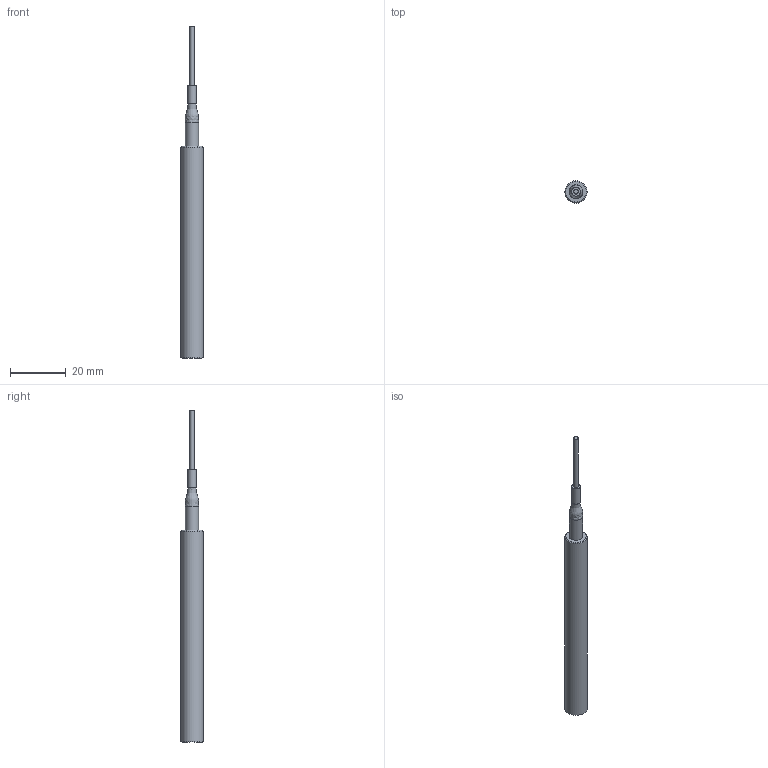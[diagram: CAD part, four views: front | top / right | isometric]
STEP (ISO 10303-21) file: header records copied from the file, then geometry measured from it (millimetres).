
FILE_DESCRIPTION((''),'2;1');
FILE_NAME('Y:\Konstruktion\GTProjekte\ME\Standartsensoren\IFS2403\IFS2403-1,5.stp','2013-01-17T09:22:54',('sven'),(''),'Autodesk Inventor 2012','Autodesk Inventor 2012','');
FILE_SCHEMA(('AUTOMOTIVE_DESIGN { 1 0 10303 214 1 1 1 1 }'));
Length unit declared in the file: inch
Products named in the file (5): IFS2403-1,5; faser; ME_S8mm_TypA; Schrumpfschlauch; A397
Assembly tree (4 placements, depth 2):
  IFS2403-1,5
    faser
    ME_S8mm_TypA
    Schrumpfschlauch
    A397
Bounding box: 8 x 8 x 119.28 mm (x, y, z)
Volume: 2541.9 mm3; surface area: 4090.2 mm2
Topology: 3 solids, 4 shells, 27 faces, 47 edges, 28 vertices
Faces by surface type: cylinder 11, plane 9, bspline 3, cone 2, revolution 2
Full cylindrical faces by diameter (mm): 0.4 x1, 1.6 x1, 1.712 x1, 2.5 x1, 3.14 x1, 4.695 x1, 5 x1, 5.5 x1, 7.2 x2, 8 x1
Entity records: 882 total; most frequent: CARTESIAN_POINT 254, DIRECTION 112, ORIENTED_EDGE 58, AXIS2_PLACEMENT_3D 55, EDGE_LOOP 47, EDGE_CURVE 29, FACE_OUTER_BOUND 27, ADVANCED_FACE 27
